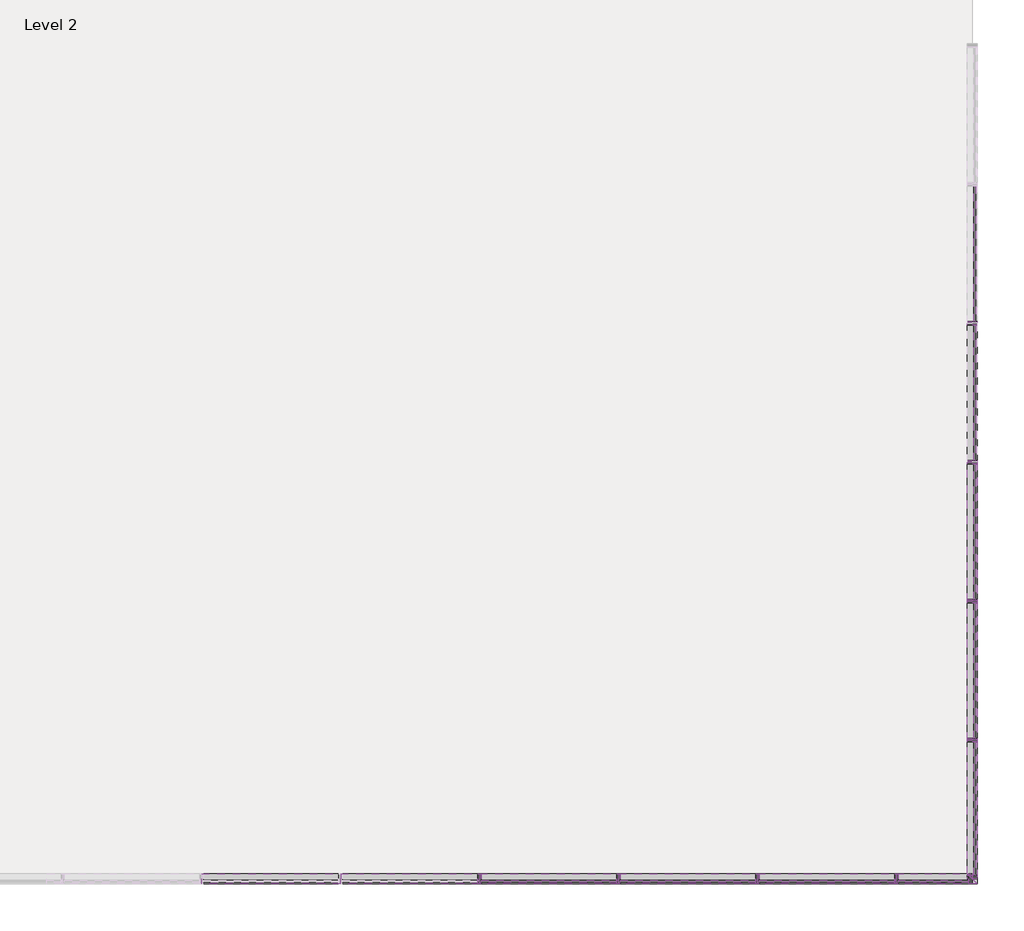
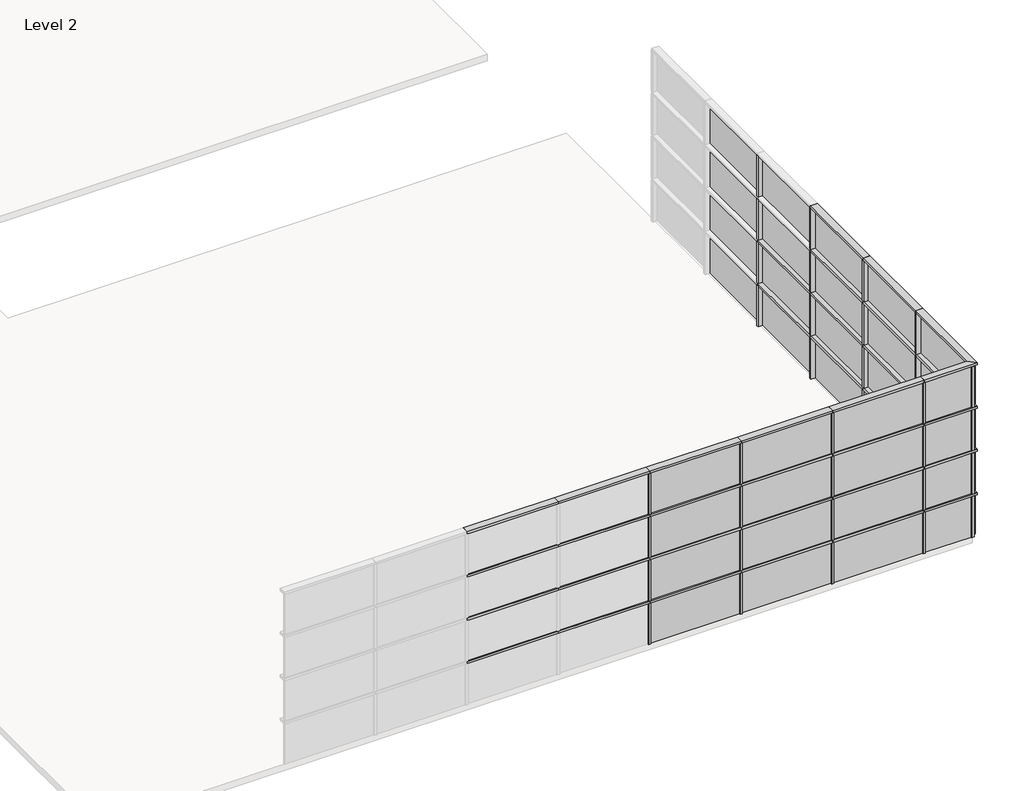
# One storey, part 3 of 6: 78 members, 36 plates.
"""IFC4 building model written with IfcOpenShell, lengths in millimetres."""

from ifc_helpers import new_model, si_unit, origin, place, context, project, spatial, transform, mapped, element, save
from components import rectangular_mullion_50_x_150mm_a053b0ca, rectangular_mullion_50_x_150mm_3a148f0f, rectangular_mullion_50_x_150mm_12a430f9, rectangular_mullion_50_x_150mm_947845bb, rectangular_mullion_50_x_150mm_f68fa77e, system_panel_glazed_751a585c, system_panel_glazed_08de6f5f, system_panel_glazed_3987acf4

model = new_model("IFC4")

# Units and contexts
model_context = context("Model", 3, world=origin())
ifc_project = project(units=[si_unit("LENGTHUNIT", "METRE", prefix="MILLI")], contexts=[model_context])

# Site, building, storey
site = spatial("IfcSite", under=ifc_project)
building = spatial("IfcBuilding", under=site)
storey = spatial("IfcBuildingStorey", under=building, Name="Level 2", Elevation=4000.0)

# Members
placement = place(None, origin())
rectangular_mullion_50_x_150mm_shape = rectangular_mullion_50_x_150mm_a053b0ca(model_context)
element("IfcMember", 1, ObjectType="Rectangular Mullion : 50 x 150mm", at=placement, inside=storey, context=model_context, shape_type="MappedRepresentation", body=[
    mapped(rectangular_mullion_50_x_150mm_shape, transform((6412.826594, -21988.7417365, 4025.0), x_axis=(1.0, 0.0, 0.0), y_axis=(0.0, -1.0, 0.0), z_axis=(0.0, 0.0, -1.0))),
])
element("IfcMember", 2, ObjectType="Rectangular Mullion : 50 x 150mm", at=placement, inside=storey, context=model_context, shape_type="MappedRepresentation", body=[
    mapped(rectangular_mullion_50_x_150mm_shape, transform((6412.826594, -21988.7417365, 5025.0), x_axis=(1.0, 0.0, 0.0), y_axis=(0.0, -1.0, 0.0), z_axis=(0.0, 0.0, -0.9999999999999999))),
])
element("IfcMember", 3, ObjectType="Rectangular Mullion : 50 x 150mm", at=placement, inside=storey, context=model_context, shape_type="MappedRepresentation", body=[
    mapped(rectangular_mullion_50_x_150mm_shape, transform((6412.826594, -21988.7417365, 6025.0), x_axis=(1.0, 0.0, 0.0), y_axis=(0.0, -1.0, 0.0), z_axis=(0.0, 0.0, -0.9999999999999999))),
])
element("IfcMember", 4, ObjectType="Rectangular Mullion : 50 x 150mm", at=placement, inside=storey, context=model_context, shape_type="MappedRepresentation", body=[
    mapped(rectangular_mullion_50_x_150mm_shape, transform((6412.826594, -21988.7417365, 7025.0), x_axis=(1.0, 0.0, 0.0), y_axis=(0.0, -1.0, 0.0), z_axis=(0.0, 0.0, -1.0))),
])
element("IfcMember", 5, ObjectType="Rectangular Mullion : 50 x 150mm", at=placement, inside=storey, context=model_context, shape_type="MappedRepresentation", body=[
    mapped(rectangular_mullion_50_x_150mm_shape, transform((8412.826594, -21988.7417365, 4025.0), x_axis=(1.0, 0.0, 0.0), y_axis=(0.0, -1.0, 0.0), z_axis=(0.0, 0.0, -1.0))),
])
element("IfcMember", 6, ObjectType="Rectangular Mullion : 50 x 150mm", at=placement, inside=storey, context=model_context, shape_type="MappedRepresentation", body=[
    mapped(rectangular_mullion_50_x_150mm_shape, transform((8412.826594, -21988.7417365, 5025.0), x_axis=(1.0, 0.0, 0.0), y_axis=(0.0, -1.0, 0.0), z_axis=(0.0, 0.0, -0.9999999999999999))),
])
element("IfcMember", 7, ObjectType="Rectangular Mullion : 50 x 150mm", at=placement, inside=storey, context=model_context, shape_type="MappedRepresentation", body=[
    mapped(rectangular_mullion_50_x_150mm_shape, transform((8412.826594, -21988.7417365, 6025.0), x_axis=(1.0, 0.0, 0.0), y_axis=(0.0, -1.0, 0.0), z_axis=(0.0, 0.0, -0.9999999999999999))),
])
element("IfcMember", 8, ObjectType="Rectangular Mullion : 50 x 150mm", at=placement, inside=storey, context=model_context, shape_type="MappedRepresentation", body=[
    mapped(rectangular_mullion_50_x_150mm_shape, transform((8412.826594, -21988.7417365, 7025.0), x_axis=(1.0, 0.0, 0.0), y_axis=(0.0, -1.0, 0.0), z_axis=(0.0, 0.0, -1.0))),
])
element("IfcMember", 9, ObjectType="Rectangular Mullion : 50 x 150mm", at=placement, inside=storey, context=model_context, shape_type="MappedRepresentation", body=[
    mapped(rectangular_mullion_50_x_150mm_shape, transform((10412.826594, -21988.7417365, 4025.0), x_axis=(1.0, 0.0, 0.0), y_axis=(0.0, -1.0, 0.0), z_axis=(0.0, 0.0, -1.0))),
])
element("IfcMember", 10, ObjectType="Rectangular Mullion : 50 x 150mm", at=placement, inside=storey, context=model_context, shape_type="MappedRepresentation", body=[
    mapped(rectangular_mullion_50_x_150mm_shape, transform((10412.826594, -21988.7417365, 5025.0), x_axis=(1.0, 0.0, 0.0), y_axis=(0.0, -1.0, 0.0), z_axis=(0.0, 0.0, -0.9999999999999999))),
])
element("IfcMember", 11, ObjectType="Rectangular Mullion : 50 x 150mm", at=placement, inside=storey, context=model_context, shape_type="MappedRepresentation", body=[
    mapped(rectangular_mullion_50_x_150mm_shape, transform((10412.826594, -21988.7417365, 6025.0), x_axis=(1.0, 0.0, 0.0), y_axis=(0.0, -1.0, 0.0), z_axis=(0.0, 0.0, -0.9999999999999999))),
])
element("IfcMember", 12, ObjectType="Rectangular Mullion : 50 x 150mm", at=placement, inside=storey, context=model_context, shape_type="MappedRepresentation", body=[
    mapped(rectangular_mullion_50_x_150mm_shape, transform((10412.826594, -21988.7417365, 7025.0), x_axis=(1.0, 0.0, 0.0), y_axis=(0.0, -1.0, 0.0), z_axis=(0.0, 0.0, -1.0))),
])
element("IfcMember", 13, ObjectType="Rectangular Mullion : 50 x 150mm", at=placement, inside=storey, context=model_context, shape_type="MappedRepresentation", body=[
    mapped(rectangular_mullion_50_x_150mm_shape, transform((12412.826594, -21988.7417365, 4025.0), x_axis=(1.0, 0.0, 0.0), y_axis=(0.0, -1.0, 0.0), z_axis=(0.0, 0.0, -1.0))),
])
element("IfcMember", 14, ObjectType="Rectangular Mullion : 50 x 150mm", at=placement, inside=storey, context=model_context, shape_type="MappedRepresentation", body=[
    mapped(rectangular_mullion_50_x_150mm_shape, transform((12412.826594, -21988.7417365, 5025.0), x_axis=(1.0, 0.0, 0.0), y_axis=(0.0, -1.0, 0.0), z_axis=(0.0, 0.0, -0.9999999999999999))),
])
element("IfcMember", 15, ObjectType="Rectangular Mullion : 50 x 150mm", at=placement, inside=storey, context=model_context, shape_type="MappedRepresentation", body=[
    mapped(rectangular_mullion_50_x_150mm_shape, transform((12412.826594, -21988.7417365, 6025.0), x_axis=(1.0, 0.0, 0.0), y_axis=(0.0, -1.0, 0.0), z_axis=(0.0, 0.0, -0.9999999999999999))),
])
element("IfcMember", 16, ObjectType="Rectangular Mullion : 50 x 150mm", at=placement, inside=storey, context=model_context, shape_type="MappedRepresentation", body=[
    mapped(rectangular_mullion_50_x_150mm_shape, transform((12412.826594, -21988.7417365, 7025.0), x_axis=(1.0, 0.0, 0.0), y_axis=(0.0, -1.0, 0.0), z_axis=(0.0, 0.0, -1.0))),
])
element("IfcMember", 17, ObjectType="Rectangular Mullion : 50 x 150mm", at=placement, inside=storey, context=model_context, shape_type="MappedRepresentation", body=[
    mapped(rectangular_mullion_50_x_150mm_shape, transform((13503.2660975, -13988.7417365, 4025.0), x_axis=(0.0, 1.0, 0.0), y_axis=(1.0, 0.0, 0.0), z_axis=(0.0, 0.0, -1.0))),
])
element("IfcMember", 18, ObjectType="Rectangular Mullion : 50 x 150mm", at=placement, inside=storey, context=model_context, shape_type="MappedRepresentation", body=[
    mapped(rectangular_mullion_50_x_150mm_shape, transform((13503.2660975, -13988.7417365, 5025.0), x_axis=(0.0, 1.0, 0.0), y_axis=(1.0, 0.0, 0.0), z_axis=(0.0, 0.0, -0.9999999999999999))),
])
element("IfcMember", 19, ObjectType="Rectangular Mullion : 50 x 150mm", at=placement, inside=storey, context=model_context, shape_type="MappedRepresentation", body=[
    mapped(rectangular_mullion_50_x_150mm_shape, transform((13503.2660975, -13988.7417365, 6025.0), x_axis=(0.0, 1.0, 0.0), y_axis=(1.0, 0.0, 0.0), z_axis=(0.0, 0.0, -0.9999999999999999))),
])
element("IfcMember", 20, ObjectType="Rectangular Mullion : 50 x 150mm", at=placement, inside=storey, context=model_context, shape_type="MappedRepresentation", body=[
    mapped(rectangular_mullion_50_x_150mm_shape, transform((13503.2660975, -13988.7417365, 7025.0), x_axis=(0.0, 1.0, 0.0), y_axis=(1.0, 0.0, 0.0), z_axis=(0.0, 0.0, -1.0))),
])
element("IfcMember", 21, ObjectType="Rectangular Mullion : 50 x 150mm", at=placement, inside=storey, context=model_context, shape_type="MappedRepresentation", body=[
    mapped(rectangular_mullion_50_x_150mm_shape, transform((13503.2660975, -15988.7417365, 4025.0), x_axis=(0.0, 1.0, 0.0), y_axis=(1.0, 0.0, 0.0), z_axis=(0.0, 0.0, -1.0))),
])
element("IfcMember", 22, ObjectType="Rectangular Mullion : 50 x 150mm", at=placement, inside=storey, context=model_context, shape_type="MappedRepresentation", body=[
    mapped(rectangular_mullion_50_x_150mm_shape, transform((13503.2660975, -15988.7417365, 5025.0), x_axis=(0.0, 1.0, 0.0), y_axis=(1.0, 0.0, 0.0), z_axis=(0.0, 0.0, -0.9999999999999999))),
])
element("IfcMember", 23, ObjectType="Rectangular Mullion : 50 x 150mm", at=placement, inside=storey, context=model_context, shape_type="MappedRepresentation", body=[
    mapped(rectangular_mullion_50_x_150mm_shape, transform((13503.2660975, -15988.7417365, 6025.0), x_axis=(0.0, 1.0, 0.0), y_axis=(1.0, 0.0, 0.0), z_axis=(0.0, 0.0, -0.9999999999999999))),
])
element("IfcMember", 24, ObjectType="Rectangular Mullion : 50 x 150mm", at=placement, inside=storey, context=model_context, shape_type="MappedRepresentation", body=[
    mapped(rectangular_mullion_50_x_150mm_shape, transform((13503.2660975, -15988.7417365, 7025.0), x_axis=(0.0, 1.0, 0.0), y_axis=(1.0, 0.0, 0.0), z_axis=(0.0, 0.0, -1.0))),
])
element("IfcMember", 25, ObjectType="Rectangular Mullion : 50 x 150mm", at=placement, inside=storey, context=model_context, shape_type="MappedRepresentation", body=[
    mapped(rectangular_mullion_50_x_150mm_shape, transform((13503.2660975, -19988.7417365, 4025.0), x_axis=(0.0, 1.0, 0.0), y_axis=(1.0, 0.0, 0.0), z_axis=(0.0, 0.0, -1.0))),
])
element("IfcMember", 26, ObjectType="Rectangular Mullion : 50 x 150mm", at=placement, inside=storey, context=model_context, shape_type="MappedRepresentation", body=[
    mapped(rectangular_mullion_50_x_150mm_shape, transform((13503.2660975, -19988.7417365, 5025.0), x_axis=(0.0, 1.0, 0.0), y_axis=(1.0, 0.0, 0.0), z_axis=(0.0, 0.0, -0.9999999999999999))),
])
element("IfcMember", 27, ObjectType="Rectangular Mullion : 50 x 150mm", at=placement, inside=storey, context=model_context, shape_type="MappedRepresentation", body=[
    mapped(rectangular_mullion_50_x_150mm_shape, transform((13503.2660975, -17988.7417365, 4025.0), x_axis=(0.0, 1.0, 0.0), y_axis=(1.0, 0.0, 0.0), z_axis=(0.0, 0.0, -1.0))),
])
element("IfcMember", 28, ObjectType="Rectangular Mullion : 50 x 150mm", at=placement, inside=storey, context=model_context, shape_type="MappedRepresentation", body=[
    mapped(rectangular_mullion_50_x_150mm_shape, transform((13503.2660975, -17988.7417365, 5025.0), x_axis=(0.0, 1.0, 0.0), y_axis=(1.0, 0.0, 0.0), z_axis=(0.0, 0.0, -0.9999999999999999))),
])
element("IfcMember", 29, ObjectType="Rectangular Mullion : 50 x 150mm", at=placement, inside=storey, context=model_context, shape_type="MappedRepresentation", body=[
    mapped(rectangular_mullion_50_x_150mm_shape, transform((13503.2660975, -17988.7417365, 6025.0), x_axis=(0.0, 1.0, 0.0), y_axis=(1.0, 0.0, 0.0), z_axis=(0.0, 0.0, -0.9999999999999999))),
])
element("IfcMember", 30, ObjectType="Rectangular Mullion : 50 x 150mm", at=placement, inside=storey, context=model_context, shape_type="MappedRepresentation", body=[
    mapped(rectangular_mullion_50_x_150mm_shape, transform((13503.2660975, -17988.7417365, 7025.0), x_axis=(0.0, 1.0, 0.0), y_axis=(1.0, 0.0, 0.0), z_axis=(0.0, 0.0, -1.0))),
])
element("IfcMember", 31, ObjectType="Rectangular Mullion : 50 x 150mm", at=placement, inside=storey, context=model_context, shape_type="MappedRepresentation", body=[
    mapped(rectangular_mullion_50_x_150mm_shape, transform((13503.2660975, -19988.7417365, 6025.0), x_axis=(0.0, 1.0, 0.0), y_axis=(1.0, 0.0, 0.0), z_axis=(0.0, 0.0, -0.9999999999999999))),
])
element("IfcMember", 32, ObjectType="Rectangular Mullion : 50 x 150mm", at=placement, inside=storey, context=model_context, shape_type="MappedRepresentation", body=[
    mapped(rectangular_mullion_50_x_150mm_shape, transform((13503.2660975, -19988.7417365, 7025.0), x_axis=(0.0, 1.0, 0.0), y_axis=(1.0, 0.0, 0.0), z_axis=(0.0, 0.0, -1.0))),
])
rectangular_mullion_50_x_150mm_2_shape = rectangular_mullion_50_x_150mm_3a148f0f(model_context)
element("IfcMember", 33, ObjectType="Rectangular Mullion : 50 x 150mm", at=placement, inside=storey, context=model_context, shape_type="MappedRepresentation", body=[
    mapped(rectangular_mullion_50_x_150mm_2_shape, transform((4412.826594, -21988.7417365, 5000.0), x_axis=(0.0, 0.0, 1.0), y_axis=(0.0, -1.0, 0.0), z_axis=(1.0, 0.0, 0.0))),
])
element("IfcMember", 34, ObjectType="Rectangular Mullion : 50 x 150mm", at=placement, inside=storey, context=model_context, shape_type="MappedRepresentation", body=[
    mapped(rectangular_mullion_50_x_150mm_2_shape, transform((6412.826594, -21988.7417365, 5000.0), x_axis=(0.0, 0.0, 1.0), y_axis=(0.0, -1.0, 0.0), z_axis=(1.0, 0.0, 0.0))),
])
element("IfcMember", 35, ObjectType="Rectangular Mullion : 50 x 150mm", at=placement, inside=storey, context=model_context, shape_type="MappedRepresentation", body=[
    mapped(rectangular_mullion_50_x_150mm_2_shape, transform((8412.826594, -21988.7417365, 5000.0), x_axis=(0.0, 0.0, 1.0), y_axis=(0.0, -1.0, 0.0), z_axis=(1.0, 0.0, 0.0))),
])
element("IfcMember", 36, ObjectType="Rectangular Mullion : 50 x 150mm", at=placement, inside=storey, context=model_context, shape_type="MappedRepresentation", body=[
    mapped(rectangular_mullion_50_x_150mm_2_shape, transform((10412.826594, -21988.7417365, 5000.0), x_axis=(0.0, 0.0, 1.0), y_axis=(0.0, -1.0, 0.0), z_axis=(1.0, 0.0, 0.0))),
])
element("IfcMember", 37, ObjectType="Rectangular Mullion : 50 x 150mm", at=placement, inside=storey, context=model_context, shape_type="MappedRepresentation", body=[
    mapped(rectangular_mullion_50_x_150mm_2_shape, transform((12412.826594, -21988.7417365, 5000.0), x_axis=(0.0, 0.0, 1.0), y_axis=(0.0, -1.0, 0.0), z_axis=(1.0, 0.0, 0.0))),
])
element("IfcMember", 38, ObjectType="Rectangular Mullion : 50 x 150mm", at=placement, inside=storey, context=model_context, shape_type="MappedRepresentation", body=[
    mapped(rectangular_mullion_50_x_150mm_2_shape, transform((4412.826594, -21988.7417365, 6000.0), x_axis=(0.0, 0.0, 1.0), y_axis=(0.0, -1.0, 0.0), z_axis=(1.0, 0.0, 0.0))),
])
element("IfcMember", 39, ObjectType="Rectangular Mullion : 50 x 150mm", at=placement, inside=storey, context=model_context, shape_type="MappedRepresentation", body=[
    mapped(rectangular_mullion_50_x_150mm_2_shape, transform((6412.826594, -21988.7417365, 6000.0), x_axis=(0.0, 0.0, 1.0), y_axis=(0.0, -1.0, 0.0), z_axis=(1.0, 0.0, 0.0))),
])
element("IfcMember", 40, ObjectType="Rectangular Mullion : 50 x 150mm", at=placement, inside=storey, context=model_context, shape_type="MappedRepresentation", body=[
    mapped(rectangular_mullion_50_x_150mm_2_shape, transform((8412.826594, -21988.7417365, 6000.0), x_axis=(0.0, 0.0, 1.0), y_axis=(0.0, -1.0, 0.0), z_axis=(1.0, 0.0, 0.0))),
])
element("IfcMember", 41, ObjectType="Rectangular Mullion : 50 x 150mm", at=placement, inside=storey, context=model_context, shape_type="MappedRepresentation", body=[
    mapped(rectangular_mullion_50_x_150mm_2_shape, transform((10412.826594, -21988.7417365, 6000.0), x_axis=(0.0, 0.0, 1.0), y_axis=(0.0, -1.0, 0.0), z_axis=(1.0, 0.0, 0.0))),
])
element("IfcMember", 42, ObjectType="Rectangular Mullion : 50 x 150mm", at=placement, inside=storey, context=model_context, shape_type="MappedRepresentation", body=[
    mapped(rectangular_mullion_50_x_150mm_2_shape, transform((12412.826594, -21988.7417365, 6000.0), x_axis=(0.0, 0.0, 1.0), y_axis=(0.0, -1.0, 0.0), z_axis=(1.0, 0.0, 0.0))),
])
element("IfcMember", 43, ObjectType="Rectangular Mullion : 50 x 150mm", at=placement, inside=storey, context=model_context, shape_type="MappedRepresentation", body=[
    mapped(rectangular_mullion_50_x_150mm_2_shape, transform((4412.826594, -21988.7417365, 7000.0), x_axis=(0.0, 0.0, 1.0), y_axis=(0.0, -1.0, 0.0), z_axis=(0.9999999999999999, 0.0, 0.0))),
])
element("IfcMember", 44, ObjectType="Rectangular Mullion : 50 x 150mm", at=placement, inside=storey, context=model_context, shape_type="MappedRepresentation", body=[
    mapped(rectangular_mullion_50_x_150mm_2_shape, transform((6412.826594, -21988.7417365, 7000.0), x_axis=(0.0, 0.0, 1.0), y_axis=(0.0, -1.0, 0.0), z_axis=(1.0, 0.0, 0.0))),
])
element("IfcMember", 45, ObjectType="Rectangular Mullion : 50 x 150mm", at=placement, inside=storey, context=model_context, shape_type="MappedRepresentation", body=[
    mapped(rectangular_mullion_50_x_150mm_2_shape, transform((8412.826594, -21988.7417365, 7000.0), x_axis=(0.0, 0.0, 1.0), y_axis=(0.0, -1.0, 0.0), z_axis=(1.0, 0.0, 0.0))),
])
element("IfcMember", 46, ObjectType="Rectangular Mullion : 50 x 150mm", at=placement, inside=storey, context=model_context, shape_type="MappedRepresentation", body=[
    mapped(rectangular_mullion_50_x_150mm_2_shape, transform((10412.826594, -21988.7417365, 7000.0), x_axis=(0.0, 0.0, 1.0), y_axis=(0.0, -1.0, 0.0), z_axis=(1.0, 0.0, 0.0))),
])
element("IfcMember", 47, ObjectType="Rectangular Mullion : 50 x 150mm", at=placement, inside=storey, context=model_context, shape_type="MappedRepresentation", body=[
    mapped(rectangular_mullion_50_x_150mm_2_shape, transform((12412.826594, -21988.7417365, 7000.0), x_axis=(0.0, 0.0, 1.0), y_axis=(0.0, -1.0, 0.0), z_axis=(1.0, 0.0, 0.0))),
])
element("IfcMember", 48, ObjectType="Rectangular Mullion : 50 x 150mm", at=placement, inside=storey, context=model_context, shape_type="MappedRepresentation", body=[
    mapped(rectangular_mullion_50_x_150mm_2_shape, transform((4412.826594, -21988.7417365, 8000.0), x_axis=(0.0, 0.0, 1.0), y_axis=(0.0, -1.0, 0.0), z_axis=(1.0, 0.0, 0.0))),
])
element("IfcMember", 49, ObjectType="Rectangular Mullion : 50 x 150mm", at=placement, inside=storey, context=model_context, shape_type="MappedRepresentation", body=[
    mapped(rectangular_mullion_50_x_150mm_2_shape, transform((6412.826594, -21988.7417365, 8000.0), x_axis=(0.0, 0.0, 1.0), y_axis=(0.0, -1.0, 0.0), z_axis=(1.0, 0.0, 0.0))),
])
element("IfcMember", 50, ObjectType="Rectangular Mullion : 50 x 150mm", at=placement, inside=storey, context=model_context, shape_type="MappedRepresentation", body=[
    mapped(rectangular_mullion_50_x_150mm_2_shape, transform((8412.826594, -21988.7417365, 8000.0), x_axis=(0.0, 0.0, 1.0), y_axis=(0.0, -1.0, 0.0), z_axis=(1.0, 0.0, 0.0))),
])
element("IfcMember", 51, ObjectType="Rectangular Mullion : 50 x 150mm", at=placement, inside=storey, context=model_context, shape_type="MappedRepresentation", body=[
    mapped(rectangular_mullion_50_x_150mm_2_shape, transform((10412.826594, -21988.7417365, 8000.0), x_axis=(0.0, 0.0, 1.0), y_axis=(0.0, -1.0, 0.0), z_axis=(1.0, 0.0, 0.0))),
])
element("IfcMember", 52, ObjectType="Rectangular Mullion : 50 x 150mm", at=placement, inside=storey, context=model_context, shape_type="MappedRepresentation", body=[
    mapped(rectangular_mullion_50_x_150mm_2_shape, transform((12412.826594, -21988.7417365, 8000.0), x_axis=(0.0, 0.0, 1.0), y_axis=(0.0, -1.0, 0.0), z_axis=(1.0, 0.0, 0.0))),
])
element("IfcMember", 53, ObjectType="Rectangular Mullion : 50 x 150mm", at=placement, inside=storey, context=model_context, shape_type="MappedRepresentation", body=[
    mapped(rectangular_mullion_50_x_150mm_2_shape, transform((13503.2660975, -17988.7417365, 5000.0), x_axis=(0.0, 0.0, 1.0), y_axis=(1.0, 0.0, 0.0), z_axis=(0.0, 1.0, 0.0))),
])
element("IfcMember", 54, ObjectType="Rectangular Mullion : 50 x 150mm", at=placement, inside=storey, context=model_context, shape_type="MappedRepresentation", body=[
    mapped(rectangular_mullion_50_x_150mm_2_shape, transform((13503.2660975, -15988.7417365, 5000.0), x_axis=(0.0, 0.0, 1.0), y_axis=(1.0, 0.0, 0.0), z_axis=(0.0, 1.0, 0.0))),
])
element("IfcMember", 55, ObjectType="Rectangular Mullion : 50 x 150mm", at=placement, inside=storey, context=model_context, shape_type="MappedRepresentation", body=[
    mapped(rectangular_mullion_50_x_150mm_2_shape, transform((13503.2660975, -13988.7417365, 5000.0), x_axis=(0.0, 0.0, 1.0), y_axis=(1.0, 0.0, 0.0), z_axis=(0.0, 1.0, 0.0))),
])
element("IfcMember", 56, ObjectType="Rectangular Mullion : 50 x 150mm", at=placement, inside=storey, context=model_context, shape_type="MappedRepresentation", body=[
    mapped(rectangular_mullion_50_x_150mm_2_shape, transform((13503.2660975, -17988.7417365, 6000.0), x_axis=(0.0, 0.0, 1.0), y_axis=(1.0, 0.0, 0.0), z_axis=(0.0, 1.0, 0.0))),
])
element("IfcMember", 57, ObjectType="Rectangular Mullion : 50 x 150mm", at=placement, inside=storey, context=model_context, shape_type="MappedRepresentation", body=[
    mapped(rectangular_mullion_50_x_150mm_2_shape, transform((13503.2660975, -15988.7417365, 6000.0), x_axis=(0.0, 0.0, 1.0), y_axis=(1.0, 0.0, 0.0), z_axis=(0.0, 1.0, 0.0))),
])
element("IfcMember", 58, ObjectType="Rectangular Mullion : 50 x 150mm", at=placement, inside=storey, context=model_context, shape_type="MappedRepresentation", body=[
    mapped(rectangular_mullion_50_x_150mm_2_shape, transform((13503.2660975, -13988.7417365, 6000.0), x_axis=(0.0, 0.0, 1.0), y_axis=(1.0, 0.0, 0.0), z_axis=(0.0, 1.0, 0.0))),
])
element("IfcMember", 59, ObjectType="Rectangular Mullion : 50 x 150mm", at=placement, inside=storey, context=model_context, shape_type="MappedRepresentation", body=[
    mapped(rectangular_mullion_50_x_150mm_2_shape, transform((13503.2660975, -17988.7417365, 7000.0), x_axis=(0.0, 0.0, 1.0), y_axis=(1.0, 0.0, 0.0), z_axis=(0.0, 1.0, 0.0))),
])
element("IfcMember", 60, ObjectType="Rectangular Mullion : 50 x 150mm", at=placement, inside=storey, context=model_context, shape_type="MappedRepresentation", body=[
    mapped(rectangular_mullion_50_x_150mm_2_shape, transform((13503.2660975, -15988.7417365, 7000.0), x_axis=(0.0, 0.0, 1.0), y_axis=(1.0, 0.0, 0.0), z_axis=(0.0, 1.0, 0.0))),
])
element("IfcMember", 61, ObjectType="Rectangular Mullion : 50 x 150mm", at=placement, inside=storey, context=model_context, shape_type="MappedRepresentation", body=[
    mapped(rectangular_mullion_50_x_150mm_2_shape, transform((13503.2660975, -17988.7417365, 8000.0), x_axis=(0.0, 0.0, 1.0), y_axis=(1.0, 0.0, 0.0), z_axis=(0.0, 1.0, 0.0))),
])
element("IfcMember", 62, ObjectType="Rectangular Mullion : 50 x 150mm", at=placement, inside=storey, context=model_context, shape_type="MappedRepresentation", body=[
    mapped(rectangular_mullion_50_x_150mm_2_shape, transform((13503.2660975, -15988.7417365, 8000.0), x_axis=(0.0, 0.0, 1.0), y_axis=(1.0, 0.0, 0.0), z_axis=(0.0, 1.0, 0.0))),
])
rectangular_mullion_50_x_150mm_3_shape = rectangular_mullion_50_x_150mm_12a430f9(model_context)
element("IfcMember", 63, ObjectType="Rectangular Mullion : 50 x 150mm", at=placement, inside=storey, context=model_context, shape_type="MappedRepresentation", body=[
    mapped(rectangular_mullion_50_x_150mm_3_shape, transform((13503.2660975, -21988.7417365, 4975.0), x_axis=(0.0, -1.0, 0.0), y_axis=(1.0, 0.0, 0.0), z_axis=(0.0, 0.0, 1.0))),
])
element("IfcMember", 64, ObjectType="Rectangular Mullion : 50 x 150mm", at=placement, inside=storey, context=model_context, shape_type="MappedRepresentation", body=[
    mapped(rectangular_mullion_50_x_150mm_3_shape, transform((13503.2660975, -21988.7417365, 5975.0), x_axis=(0.0, -1.0, 0.0), y_axis=(1.0, 0.0, 0.0), z_axis=(0.0, 0.0, 0.9999999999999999))),
])
element("IfcMember", 65, ObjectType="Rectangular Mullion : 50 x 150mm", at=placement, inside=storey, context=model_context, shape_type="MappedRepresentation", body=[
    mapped(rectangular_mullion_50_x_150mm_3_shape, transform((13503.2660975, -21988.7417365, 6975.0), x_axis=(0.0, -1.0, 0.0), y_axis=(1.0, 0.0, 0.0), z_axis=(0.0, 0.0, 0.9999999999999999))),
])
element("IfcMember", 66, ObjectType="Rectangular Mullion : 50 x 150mm", at=placement, inside=storey, context=model_context, shape_type="MappedRepresentation", body=[
    mapped(rectangular_mullion_50_x_150mm_3_shape, transform((13503.2660975, -21988.7417365, 7975.0), x_axis=(0.0, -1.0, 0.0), y_axis=(1.0, 0.0, 0.0), z_axis=(0.0, 0.0, 1.0))),
])
element("IfcMember", 67, ObjectType="Rectangular Mullion : 50 x 150mm", at=placement, inside=storey, context=model_context, shape_type="MappedRepresentation", body=[
    mapped(rectangular_mullion_50_x_150mm_3_shape, transform((13503.2660975, -21988.7417365, 4025.0), x_axis=(1.0, 0.0, 0.0), y_axis=(0.0, -1.0, 0.0), z_axis=(0.0, 0.0, -1.0))),
])
element("IfcMember", 68, ObjectType="Rectangular Mullion : 50 x 150mm", at=placement, inside=storey, context=model_context, shape_type="MappedRepresentation", body=[
    mapped(rectangular_mullion_50_x_150mm_3_shape, transform((13503.2660975, -21988.7417365, 5025.0), x_axis=(1.0, 0.0, 0.0), y_axis=(0.0, -1.0, 0.0), z_axis=(0.0, 0.0, -0.9999999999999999))),
])
element("IfcMember", 69, ObjectType="Rectangular Mullion : 50 x 150mm", at=placement, inside=storey, context=model_context, shape_type="MappedRepresentation", body=[
    mapped(rectangular_mullion_50_x_150mm_3_shape, transform((13503.2660975, -21988.7417365, 6025.0), x_axis=(1.0, 0.0, 0.0), y_axis=(0.0, -1.0, 0.0), z_axis=(0.0, 0.0, -0.9999999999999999))),
])
element("IfcMember", 70, ObjectType="Rectangular Mullion : 50 x 150mm", at=placement, inside=storey, context=model_context, shape_type="MappedRepresentation", body=[
    mapped(rectangular_mullion_50_x_150mm_3_shape, transform((13503.2660975, -21988.7417365, 7025.0), x_axis=(1.0, 0.0, 0.0), y_axis=(0.0, -1.0, 0.0), z_axis=(0.0, 0.0, -1.0))),
])
rectangular_mullion_50_x_150mm_4_shape = rectangular_mullion_50_x_150mm_947845bb(model_context)
element("IfcMember", 71, ObjectType="Rectangular Mullion : 50 x 150mm", at=placement, inside=storey, context=model_context, shape_type="MappedRepresentation", body=[
    mapped(rectangular_mullion_50_x_150mm_4_shape, transform((13503.2660975, -19988.7417365, 5000.0), x_axis=(0.0, 0.0, 1.0), y_axis=(1.0, 0.0, 0.0), z_axis=(0.0, 1.0, 0.0))),
])
element("IfcMember", 72, ObjectType="Rectangular Mullion : 50 x 150mm", at=placement, inside=storey, context=model_context, shape_type="MappedRepresentation", body=[
    mapped(rectangular_mullion_50_x_150mm_4_shape, transform((13503.2660975, -19988.7417365, 6000.0), x_axis=(0.0, 0.0, 1.0), y_axis=(1.0, 0.0, 0.0), z_axis=(0.0, 1.0, 0.0))),
])
element("IfcMember", 73, ObjectType="Rectangular Mullion : 50 x 150mm", at=placement, inside=storey, context=model_context, shape_type="MappedRepresentation", body=[
    mapped(rectangular_mullion_50_x_150mm_4_shape, transform((13503.2660975, -19988.7417365, 7000.0), x_axis=(0.0, 0.0, 1.0), y_axis=(1.0, 0.0, 0.0), z_axis=(0.0, 1.0, 0.0))),
])
element("IfcMember", 74, ObjectType="Rectangular Mullion : 50 x 150mm", at=placement, inside=storey, context=model_context, shape_type="MappedRepresentation", body=[
    mapped(rectangular_mullion_50_x_150mm_4_shape, transform((13503.2660975, -19988.7417365, 8000.0), x_axis=(0.0, 0.0, 1.0), y_axis=(1.0, 0.0, 0.0), z_axis=(0.0, 1.0, 0.0))),
])
rectangular_mullion_50_x_150mm_5_shape = rectangular_mullion_50_x_150mm_f68fa77e(model_context)
element("IfcMember", 75, ObjectType="Rectangular Mullion : 50 x 150mm", at=placement, inside=storey, context=model_context, shape_type="MappedRepresentation", body=[
    mapped(rectangular_mullion_50_x_150mm_5_shape, transform((13503.2660975, -21988.7417365, 6000.0), x_axis=(0.0, 0.0, 1.0), y_axis=(0.0, -1.0, 0.0), z_axis=(0.9999999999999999, 0.0, 0.0))),
])
element("IfcMember", 76, ObjectType="Rectangular Mullion : 50 x 150mm", at=placement, inside=storey, context=model_context, shape_type="MappedRepresentation", body=[
    mapped(rectangular_mullion_50_x_150mm_5_shape, transform((13503.2660975, -21988.7417365, 7000.0), x_axis=(0.0, 0.0, 1.0), y_axis=(0.0, -1.0, 0.0), z_axis=(0.9999999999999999, 0.0, 0.0))),
])
element("IfcMember", 77, ObjectType="Rectangular Mullion : 50 x 150mm", at=placement, inside=storey, context=model_context, shape_type="MappedRepresentation", body=[
    mapped(rectangular_mullion_50_x_150mm_5_shape, transform((13503.2660975, -21988.7417365, 8000.0), x_axis=(0.0, 0.0, 1.0), y_axis=(0.0, -1.0, 0.0), z_axis=(0.9999999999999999, 0.0, 0.0))),
])
element("IfcMember", 78, ObjectType="Rectangular Mullion : 50 x 150mm", at=placement, inside=storey, context=model_context, shape_type="MappedRepresentation", body=[
    mapped(rectangular_mullion_50_x_150mm_5_shape, transform((13503.2660975, -21988.7417365, 5000.0), x_axis=(0.0, 0.0, 1.0), y_axis=(0.0, -1.0, 0.0), z_axis=(0.9999999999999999, 0.0, 0.0))),
])

# Plates
system_panel_glazed_shape = system_panel_glazed_751a585c(model_context)
element("IfcPlate", 79, ObjectType="System Panel : Glazed", at=placement, inside=storey, context=model_context, shape_type="MappedRepresentation", body=[
    mapped(system_panel_glazed_shape, transform((13503.2660975, -21938.7417365, 4500.0), x_axis=(0.0, 0.0, 1.0), y_axis=(1.0, 0.0, 0.0), z_axis=(0.0, 1.0, 0.0))),
])
element("IfcPlate", 80, ObjectType="System Panel : Glazed", at=placement, inside=storey, context=model_context, shape_type="MappedRepresentation", body=[
    mapped(system_panel_glazed_shape, transform((13503.2660975, -21938.7417365, 5500.0), x_axis=(0.0, 0.0, 1.0), y_axis=(1.0, 0.0, 0.0), z_axis=(0.0, 1.0, 0.0))),
])
element("IfcPlate", 81, ObjectType="System Panel : Glazed", at=placement, inside=storey, context=model_context, shape_type="MappedRepresentation", body=[
    mapped(system_panel_glazed_shape, transform((13503.2660975, -21938.7417365, 6500.0), x_axis=(0.0, 0.0, 1.0), y_axis=(1.0, 0.0, 0.0), z_axis=(0.0, 1.0, 0.0))),
])
element("IfcPlate", 82, ObjectType="System Panel : Glazed", at=placement, inside=storey, context=model_context, shape_type="MappedRepresentation", body=[
    mapped(system_panel_glazed_shape, transform((13503.2660975, -21938.7417365, 7500.0), x_axis=(0.0, 0.0, 1.0), y_axis=(1.0, 0.0, 0.0), z_axis=(0.0, 1.0, 0.0))),
])
system_panel_glazed_2_shape = system_panel_glazed_08de6f5f(model_context)
element("IfcPlate", 83, ObjectType="System Panel : Glazed", at=placement, inside=storey, context=model_context, shape_type="MappedRepresentation", body=[
    mapped(system_panel_glazed_2_shape, transform((6437.826594, -21988.7417365, 4500.0), x_axis=(0.0, 0.0, 1.0), y_axis=(0.0, -1.0, 0.0), z_axis=(1.0, 0.0, 0.0))),
])
element("IfcPlate", 84, ObjectType="System Panel : Glazed", at=placement, inside=storey, context=model_context, shape_type="MappedRepresentation", body=[
    mapped(system_panel_glazed_2_shape, transform((6437.826594, -21988.7417365, 5500.0), x_axis=(0.0, 0.0, 1.0), y_axis=(0.0, -1.0, 0.0), z_axis=(1.0, 0.0, 0.0))),
])
element("IfcPlate", 85, ObjectType="System Panel : Glazed", at=placement, inside=storey, context=model_context, shape_type="MappedRepresentation", body=[
    mapped(system_panel_glazed_2_shape, transform((6437.826594, -21988.7417365, 6500.0), x_axis=(0.0, 0.0, 1.0), y_axis=(0.0, -1.0, 0.0), z_axis=(1.0, 0.0, 0.0))),
])
element("IfcPlate", 86, ObjectType="System Panel : Glazed", at=placement, inside=storey, context=model_context, shape_type="MappedRepresentation", body=[
    mapped(system_panel_glazed_2_shape, transform((6437.826594, -21988.7417365, 7500.0), x_axis=(0.0, 0.0, 1.0), y_axis=(0.0, -1.0, 0.0), z_axis=(1.0, 0.0, 0.0))),
])
element("IfcPlate", 87, ObjectType="System Panel : Glazed", at=placement, inside=storey, context=model_context, shape_type="MappedRepresentation", body=[
    mapped(system_panel_glazed_2_shape, transform((8437.826594, -21988.7417365, 4500.0), x_axis=(0.0, 0.0, 1.0), y_axis=(0.0, -1.0, 0.0), z_axis=(1.0, 0.0, 0.0))),
])
element("IfcPlate", 88, ObjectType="System Panel : Glazed", at=placement, inside=storey, context=model_context, shape_type="MappedRepresentation", body=[
    mapped(system_panel_glazed_2_shape, transform((8437.826594, -21988.7417365, 5500.0), x_axis=(0.0, 0.0, 1.0), y_axis=(0.0, -1.0, 0.0), z_axis=(1.0, 0.0, 0.0))),
])
element("IfcPlate", 89, ObjectType="System Panel : Glazed", at=placement, inside=storey, context=model_context, shape_type="MappedRepresentation", body=[
    mapped(system_panel_glazed_2_shape, transform((8437.826594, -21988.7417365, 6500.0), x_axis=(0.0, 0.0, 1.0), y_axis=(0.0, -1.0, 0.0), z_axis=(1.0, 0.0, 0.0))),
])
element("IfcPlate", 90, ObjectType="System Panel : Glazed", at=placement, inside=storey, context=model_context, shape_type="MappedRepresentation", body=[
    mapped(system_panel_glazed_2_shape, transform((8437.826594, -21988.7417365, 7500.0), x_axis=(0.0, 0.0, 1.0), y_axis=(0.0, -1.0, 0.0), z_axis=(1.0, 0.0, 0.0))),
])
element("IfcPlate", 91, ObjectType="System Panel : Glazed", at=placement, inside=storey, context=model_context, shape_type="MappedRepresentation", body=[
    mapped(system_panel_glazed_2_shape, transform((10437.826594, -21988.7417365, 4500.0), x_axis=(0.0, 0.0, 1.0), y_axis=(0.0, -1.0, 0.0), z_axis=(1.0, 0.0, 0.0))),
])
element("IfcPlate", 92, ObjectType="System Panel : Glazed", at=placement, inside=storey, context=model_context, shape_type="MappedRepresentation", body=[
    mapped(system_panel_glazed_2_shape, transform((10437.826594, -21988.7417365, 5500.0), x_axis=(0.0, 0.0, 1.0), y_axis=(0.0, -1.0, 0.0), z_axis=(1.0, 0.0, 0.0))),
])
element("IfcPlate", 93, ObjectType="System Panel : Glazed", at=placement, inside=storey, context=model_context, shape_type="MappedRepresentation", body=[
    mapped(system_panel_glazed_2_shape, transform((10437.826594, -21988.7417365, 6500.0), x_axis=(0.0, 0.0, 1.0), y_axis=(0.0, -1.0, 0.0), z_axis=(1.0, 0.0, 0.0))),
])
element("IfcPlate", 94, ObjectType="System Panel : Glazed", at=placement, inside=storey, context=model_context, shape_type="MappedRepresentation", body=[
    mapped(system_panel_glazed_2_shape, transform((10437.826594, -21988.7417365, 7500.0), x_axis=(0.0, 0.0, 1.0), y_axis=(0.0, -1.0, 0.0), z_axis=(1.0, 0.0, 0.0))),
])
element("IfcPlate", 95, ObjectType="System Panel : Glazed", at=placement, inside=storey, context=model_context, shape_type="MappedRepresentation", body=[
    mapped(system_panel_glazed_2_shape, transform((13503.2660975, -19963.7417365, 4500.0), x_axis=(0.0, 0.0, 1.0), y_axis=(1.0, 0.0, 0.0), z_axis=(0.0, 1.0, 0.0))),
])
element("IfcPlate", 96, ObjectType="System Panel : Glazed", at=placement, inside=storey, context=model_context, shape_type="MappedRepresentation", body=[
    mapped(system_panel_glazed_2_shape, transform((13503.2660975, -19963.7417365, 5500.0), x_axis=(0.0, 0.0, 1.0), y_axis=(1.0, 0.0, 0.0), z_axis=(0.0, 1.0, 0.0))),
])
element("IfcPlate", 97, ObjectType="System Panel : Glazed", at=placement, inside=storey, context=model_context, shape_type="MappedRepresentation", body=[
    mapped(system_panel_glazed_2_shape, transform((13503.2660975, -19963.7417365, 6500.0), x_axis=(0.0, 0.0, 1.0), y_axis=(1.0, 0.0, 0.0), z_axis=(0.0, 1.0, 0.0))),
])
element("IfcPlate", 98, ObjectType="System Panel : Glazed", at=placement, inside=storey, context=model_context, shape_type="MappedRepresentation", body=[
    mapped(system_panel_glazed_2_shape, transform((13503.2660975, -19963.7417365, 7500.0), x_axis=(0.0, 0.0, 1.0), y_axis=(1.0, 0.0, 0.0), z_axis=(0.0, 1.0, 0.0))),
])
element("IfcPlate", 99, ObjectType="System Panel : Glazed", at=placement, inside=storey, context=model_context, shape_type="MappedRepresentation", body=[
    mapped(system_panel_glazed_2_shape, transform((13503.2660975, -17963.7417365, 4500.0), x_axis=(0.0, 0.0, 1.0), y_axis=(1.0, 0.0, 0.0), z_axis=(0.0, 1.0, 0.0))),
])
element("IfcPlate", 100, ObjectType="System Panel : Glazed", at=placement, inside=storey, context=model_context, shape_type="MappedRepresentation", body=[
    mapped(system_panel_glazed_2_shape, transform((13503.2660975, -17963.7417365, 5500.0), x_axis=(0.0, 0.0, 1.0), y_axis=(1.0, 0.0, 0.0), z_axis=(0.0, 1.0, 0.0))),
])
element("IfcPlate", 101, ObjectType="System Panel : Glazed", at=placement, inside=storey, context=model_context, shape_type="MappedRepresentation", body=[
    mapped(system_panel_glazed_2_shape, transform((13503.2660975, -17963.7417365, 6500.0), x_axis=(0.0, 0.0, 1.0), y_axis=(1.0, 0.0, 0.0), z_axis=(0.0, 1.0, 0.0))),
])
element("IfcPlate", 102, ObjectType="System Panel : Glazed", at=placement, inside=storey, context=model_context, shape_type="MappedRepresentation", body=[
    mapped(system_panel_glazed_2_shape, transform((13503.2660975, -17963.7417365, 7500.0), x_axis=(0.0, 0.0, 1.0), y_axis=(1.0, 0.0, 0.0), z_axis=(0.0, 1.0, 0.0))),
])
element("IfcPlate", 103, ObjectType="System Panel : Glazed", at=placement, inside=storey, context=model_context, shape_type="MappedRepresentation", body=[
    mapped(system_panel_glazed_2_shape, transform((13503.2660975, -15963.7417365, 4500.0), x_axis=(0.0, 0.0, 1.0), y_axis=(1.0, 0.0, 0.0), z_axis=(0.0, 1.0, 0.0))),
])
element("IfcPlate", 104, ObjectType="System Panel : Glazed", at=placement, inside=storey, context=model_context, shape_type="MappedRepresentation", body=[
    mapped(system_panel_glazed_2_shape, transform((13503.2660975, -15963.7417365, 5500.0), x_axis=(0.0, 0.0, 1.0), y_axis=(1.0, 0.0, 0.0), z_axis=(0.0, 1.0, 0.0))),
])
element("IfcPlate", 105, ObjectType="System Panel : Glazed", at=placement, inside=storey, context=model_context, shape_type="MappedRepresentation", body=[
    mapped(system_panel_glazed_2_shape, transform((13503.2660975, -15963.7417365, 6500.0), x_axis=(0.0, 0.0, 1.0), y_axis=(1.0, 0.0, 0.0), z_axis=(0.0, 1.0, 0.0))),
])
element("IfcPlate", 106, ObjectType="System Panel : Glazed", at=placement, inside=storey, context=model_context, shape_type="MappedRepresentation", body=[
    mapped(system_panel_glazed_2_shape, transform((13503.2660975, -15963.7417365, 7500.0), x_axis=(0.0, 0.0, 1.0), y_axis=(1.0, 0.0, 0.0), z_axis=(0.0, 1.0, 0.0))),
])
element("IfcPlate", 107, ObjectType="System Panel : Glazed", at=placement, inside=storey, context=model_context, shape_type="MappedRepresentation", body=[
    mapped(system_panel_glazed_2_shape, transform((13503.2660975, -13963.7417365, 4500.0), x_axis=(0.0, 0.0, 1.0), y_axis=(1.0, 0.0, 0.0), z_axis=(0.0, 1.0, 0.0))),
])
element("IfcPlate", 108, ObjectType="System Panel : Glazed", at=placement, inside=storey, context=model_context, shape_type="MappedRepresentation", body=[
    mapped(system_panel_glazed_2_shape, transform((13503.2660975, -13963.7417365, 5500.0), x_axis=(0.0, 0.0, 1.0), y_axis=(1.0, 0.0, 0.0), z_axis=(0.0, 1.0, 0.0))),
])
element("IfcPlate", 109, ObjectType="System Panel : Glazed", at=placement, inside=storey, context=model_context, shape_type="MappedRepresentation", body=[
    mapped(system_panel_glazed_2_shape, transform((13503.2660975, -13963.7417365, 6500.0), x_axis=(0.0, 0.0, 1.0), y_axis=(1.0, 0.0, 0.0), z_axis=(0.0, 1.0, 0.0))),
])
element("IfcPlate", 110, ObjectType="System Panel : Glazed", at=placement, inside=storey, context=model_context, shape_type="MappedRepresentation", body=[
    mapped(system_panel_glazed_2_shape, transform((13503.2660975, -13963.7417365, 7500.0), x_axis=(0.0, 0.0, 1.0), y_axis=(1.0, 0.0, 0.0), z_axis=(0.0, 1.0, 0.0))),
])
system_panel_glazed_3_shape = system_panel_glazed_3987acf4(model_context)
element("IfcPlate", 111, ObjectType="System Panel : Glazed", at=placement, inside=storey, context=model_context, shape_type="MappedRepresentation", body=[
    mapped(system_panel_glazed_3_shape, transform((12437.826594, -21988.7417365, 4500.0), x_axis=(0.0, 0.0, 1.0), y_axis=(0.0, -1.0, 0.0), z_axis=(1.0, 0.0, 0.0))),
])
element("IfcPlate", 112, ObjectType="System Panel : Glazed", at=placement, inside=storey, context=model_context, shape_type="MappedRepresentation", body=[
    mapped(system_panel_glazed_3_shape, transform((12437.826594, -21988.7417365, 5500.0), x_axis=(0.0, 0.0, 1.0), y_axis=(0.0, -1.0, 0.0), z_axis=(1.0, 0.0, 0.0))),
])
element("IfcPlate", 113, ObjectType="System Panel : Glazed", at=placement, inside=storey, context=model_context, shape_type="MappedRepresentation", body=[
    mapped(system_panel_glazed_3_shape, transform((12437.826594, -21988.7417365, 6500.0), x_axis=(0.0, 0.0, 1.0), y_axis=(0.0, -1.0, 0.0), z_axis=(1.0, 0.0, 0.0))),
])
element("IfcPlate", 114, ObjectType="System Panel : Glazed", at=placement, inside=storey, context=model_context, shape_type="MappedRepresentation", body=[
    mapped(system_panel_glazed_3_shape, transform((12437.826594, -21988.7417365, 7500.0), x_axis=(0.0, 0.0, 1.0), y_axis=(0.0, -1.0, 0.0), z_axis=(1.0, 0.0, 0.0))),
])

save(model, "model.ifc")
